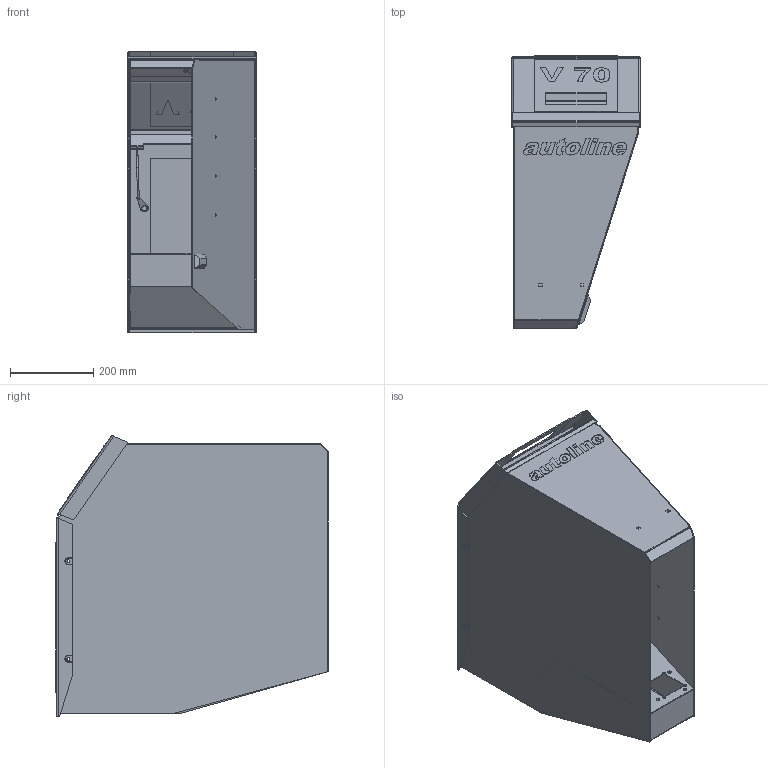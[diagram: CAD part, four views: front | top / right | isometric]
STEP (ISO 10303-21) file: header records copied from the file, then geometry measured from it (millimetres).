
FILE_DESCRIPTION((''),'2;1');
FILE_NAME('C:\Projects_1\Workspace\Autoline\Export\Step\V70V.Complete No Brackets.stp','2010-12-30T16:37:49',('borhar'),(''),'Autodesk Inventor 2011','Autodesk Inventor 2011','');
FILE_SCHEMA(('AUTOMOTIVE_DESIGN { 1 0 10303 214 1 1 1 1 }'));
Length unit declared in the file: millimetre
Products named in the file (15): V70V.iam (Export); 2302001; 71987061_V; 72960001_V.iam (Export); Frontplate V70V; Sideplate V70V-H; Sideplate V70V-V; Motorplate V70V; Bakplate V70V; Filler hatch V70; Frontluke V 70 catalog; 2302090-1; Wire; F- Wire; F- wirebrakett
Assembly tree (14 placements, depth 4):
  V70V.iam (Export)
    2302001
    71987061_V
    72960001_V.iam (Export)
      Frontplate V70V
      Sideplate V70V-H
      Sideplate V70V-V
      Motorplate V70V
      Bakplate V70V
    Filler hatch V70
      Frontluke V 70 catalog
      2302090-1
      Wire
        F- Wire
        F- wirebrakett
Bounding box: 309 x 657.38 x 679.02 mm (x, y, z)
Volume: 2962076.4 mm3; surface area: 3062752.5 mm2
Topology: 14 solids, 14 shells, 538 faces, 1434 edges, 929 vertices
Faces by surface type: plane 277, cylinder 151, bspline 78, torus 20, cone 12
Full cylindrical faces by diameter (mm): 3 x1, 3.5 x4, 5 x3, 7 x12, 8 x2, 8.5 x4, 11 x1, 13 x1, 18 x1
Entity records: 18650 total; most frequent: CARTESIAN_POINT 5031, ORIENTED_EDGE 2764, DIRECTION 2560, EDGE_CURVE 1382, VERTEX_POINT 906, VECTOR 880, LINE 880, AXIS2_PLACEMENT_3D 840
